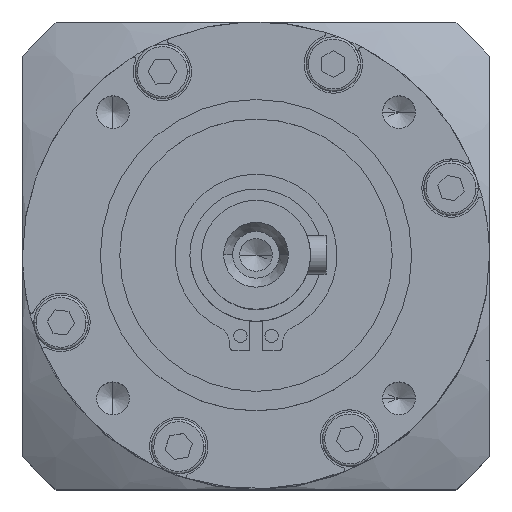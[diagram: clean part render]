
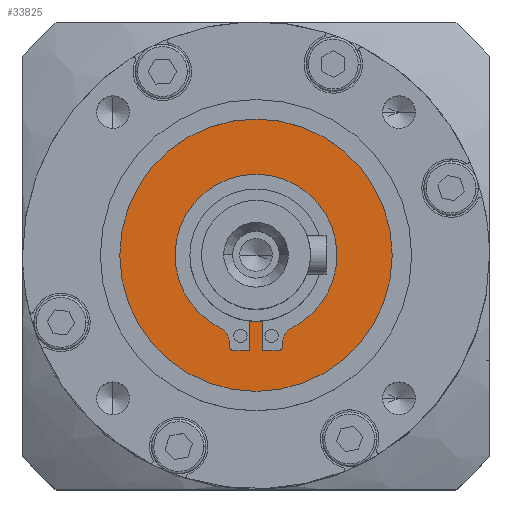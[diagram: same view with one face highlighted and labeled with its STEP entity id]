
A CAD part, top view. The second image highlights one B-rep face of the part: STEP entity #33825.
In plain terms, the highlighted planar face has unit normal (0, 0, 1).
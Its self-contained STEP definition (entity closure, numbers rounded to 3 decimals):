
#851 = AXIS2_PLACEMENT_3D ( 'NONE', #37536, #37821, #37965 ) ;
#903 = CIRCLE ( 'NONE', #15926, 2.5 ) ;
#960 = AXIS2_PLACEMENT_3D ( 'NONE', #38468, #18137, #41873 ) ;
#1443 = CIRCLE ( 'NONE', #960, 10.4 ) ;
#1683 = VERTEX_POINT ( 'NONE', #25567 ) ;
#1700 = AXIS2_PLACEMENT_3D ( 'NONE', #38561, #11574, #35281 ) ;
#1848 = EDGE_CURVE ( 'NONE', #37300, #12900, #16280, .T. ) ;
#3121 = EDGE_CURVE ( 'NONE', #28215, #20685, #39028, .T. ) ;
#3242 = EDGE_CURVE ( 'NONE', #32367, #39078, #17764, .T. ) ;
#3327 = CARTESIAN_POINT ( 'NONE',  ( -17.5, 0., -1. ) ) ;
#3812 = EDGE_CURVE ( 'NONE', #35651, #4660, #32069, .T. ) ;
#3979 = ORIENTED_EDGE ( 'NONE', *, *, #13072, .F. ) ;
#4660 = VERTEX_POINT ( 'NONE', #20517 ) ;
#4753 = CIRCLE ( 'NONE', #20169, 2.5 ) ;
#5136 = ORIENTED_EDGE ( 'NONE', *, *, #23092, .F. ) ;
#5675 = EDGE_CURVE ( 'NONE', #4660, #32367, #21968, .T. ) ;
#6275 = CIRCLE ( 'NONE', #8604, 10.4 ) ;
#6704 = DIRECTION ( 'NONE',  ( 0., 1., 0. ) ) ;
#6786 = EDGE_CURVE ( 'NONE', #1683, #23339, #30357, .T. ) ;
#6891 = ORIENTED_EDGE ( 'NONE', *, *, #15250, .F. ) ;
#7094 = CARTESIAN_POINT ( 'NONE',  ( -10.4, 0., -1. ) ) ;
#7589 = CARTESIAN_POINT ( 'NONE',  ( -2.85, -11.757, -1. ) ) ;
#7803 = DIRECTION ( 'NONE',  ( 0., 0., 1. ) ) ;
#8193 = PLANE ( 'NONE',  #1700 ) ;
#8255 = CARTESIAN_POINT ( 'NONE',  ( 3.35, -11.497, -1. ) ) ;
#8368 = EDGE_CURVE ( 'NONE', #23339, #35651, #43013, .T. ) ;
#8402 = DIRECTION ( 'NONE',  ( 0., 0., 1. ) ) ;
#8452 = DIRECTION ( 'NONE',  ( 1., 0., 0. ) ) ;
#8604 = AXIS2_PLACEMENT_3D ( 'NONE', #28090, #7803, #31465 ) ;
#9098 = DIRECTION ( 'NONE',  ( 0., 0., -1. ) ) ;
#9262 = CARTESIAN_POINT ( 'NONE',  ( 0., 0., -1. ) ) ;
#10321 = LINE ( 'NONE', #36181, #39506 ) ;
#10360 = CIRCLE ( 'NONE', #41762, 0.5 ) ;
#10971 = DIRECTION ( 'NONE',  ( -1., 0., 0. ) ) ;
#11574 = DIRECTION ( 'NONE',  ( 0., 0., -1. ) ) ;
#12612 = EDGE_CURVE ( 'NONE', #36617, #14562, #1443, .T. ) ;
#12651 = DIRECTION ( 'NONE',  ( 1., 0., 0. ) ) ;
#12844 = DIRECTION ( 'NONE',  ( 0., 0., 1. ) ) ;
#12900 = VERTEX_POINT ( 'NONE', #3327 ) ;
#13072 = EDGE_CURVE ( 'NONE', #30993, #28048, #903, .T. ) ;
#13409 = ORIENTED_EDGE ( 'NONE', *, *, #37142, .F. ) ;
#13567 = DIRECTION ( 'NONE',  ( 0., 0., 1. ) ) ;
#14154 = ORIENTED_EDGE ( 'NONE', *, *, #12612, .F. ) ;
#14242 = FACE_BOUND ( 'NONE', #39453, .T. ) ;
#14562 = VERTEX_POINT ( 'NONE', #7094 ) ;
#15250 = EDGE_CURVE ( 'NONE', #33576, #30993, #10321, .T. ) ;
#15926 = AXIS2_PLACEMENT_3D ( 'NONE', #29360, #9098, #32769 ) ;
#16280 = CIRCLE ( 'NONE', #851, 17.5 ) ;
#16315 = CARTESIAN_POINT ( 'NONE',  ( -5.85, -11.497, -1. ) ) ;
#17058 = CIRCLE ( 'NONE', #27456, 17.5 ) ;
#17720 = CARTESIAN_POINT ( 'NONE',  ( 0.85, -12.257, -1. ) ) ;
#17752 = CIRCLE ( 'NONE', #42122, 10.4 ) ;
#17764 = LINE ( 'NONE', #20845, #34755 ) ;
#18137 = DIRECTION ( 'NONE',  ( 0., 0., 1. ) ) ;
#18923 = EDGE_CURVE ( 'NONE', #12900, #37300, #17058, .T. ) ;
#19296 = DIRECTION ( 'NONE',  ( 0., 1., 0. ) ) ;
#19731 = DIRECTION ( 'NONE',  ( -1., 0., 0. ) ) ;
#20166 = CARTESIAN_POINT ( 'NONE',  ( -0.85, 0., -1. ) ) ;
#20169 = AXIS2_PLACEMENT_3D ( 'NONE', #16315, #40053, #19731 ) ;
#20258 = DIRECTION ( 'NONE',  ( 0., -1., 0. ) ) ;
#20517 = CARTESIAN_POINT ( 'NONE',  ( 0.85, -8.457, -1. ) ) ;
#20685 = VERTEX_POINT ( 'NONE', #27031 ) ;
#20845 = CARTESIAN_POINT ( 'NONE',  ( 0., -12.257, -1. ) ) ;
#21968 = LINE ( 'NONE', #30575, #40000 ) ;
#22117 = ORIENTED_EDGE ( 'NONE', *, *, #6786, .F. ) ;
#22449 = ORIENTED_EDGE ( 'NONE', *, *, #5675, .F. ) ;
#23029 = CARTESIAN_POINT ( 'NONE',  ( 2.85, -12.257, -1. ) ) ;
#23092 = EDGE_CURVE ( 'NONE', #24758, #28215, #4753, .T. ) ;
#23292 = FACE_OUTER_BOUND ( 'NONE', #33878, .T. ) ;
#23312 = CARTESIAN_POINT ( 'NONE',  ( 3.35, -11.757, -1. ) ) ;
#23339 = VERTEX_POINT ( 'NONE', #31113 ) ;
#23341 = EDGE_CURVE ( 'NONE', #20685, #1683, #34404, .T. ) ;
#23722 = CARTESIAN_POINT ( 'NONE',  ( -4.716, -9.269, -1. ) ) ;
#24214 = EDGE_CURVE ( 'NONE', #14562, #24758, #6275, .T. ) ;
#24758 = VERTEX_POINT ( 'NONE', #23722 ) ;
#25567 = CARTESIAN_POINT ( 'NONE',  ( -2.85, -12.257, -1. ) ) ;
#25887 = ORIENTED_EDGE ( 'NONE', *, *, #3812, .F. ) ;
#26189 = ORIENTED_EDGE ( 'NONE', *, *, #3242, .F. ) ;
#26268 = ORIENTED_EDGE ( 'NONE', *, *, #8368, .F. ) ;
#26414 = EDGE_CURVE ( 'NONE', #28048, #36617, #17752, .T. ) ;
#26555 = ORIENTED_EDGE ( 'NONE', *, *, #18923, .T. ) ;
#26809 = ORIENTED_EDGE ( 'NONE', *, *, #26414, .F. ) ;
#27031 = CARTESIAN_POINT ( 'NONE',  ( -3.35, -11.757, -1. ) ) ;
#27456 = AXIS2_PLACEMENT_3D ( 'NONE', #9262, #32950, #12651 ) ;
#28048 = VERTEX_POINT ( 'NONE', #38283 ) ;
#28090 = CARTESIAN_POINT ( 'NONE',  ( 0., 0., -1. ) ) ;
#28215 = VERTEX_POINT ( 'NONE', #32478 ) ;
#28669 = CARTESIAN_POINT ( 'NONE',  ( 2.85, -11.757, -1. ) ) ;
#29360 = CARTESIAN_POINT ( 'NONE',  ( 5.85, -11.497, -1. ) ) ;
#29980 = VECTOR ( 'NONE', #20258, 1000. ) ;
#30357 = LINE ( 'NONE', #32110, #38349 ) ;
#30575 = CARTESIAN_POINT ( 'NONE',  ( 0.85, 0., -1. ) ) ;
#30993 = VERTEX_POINT ( 'NONE', #8255 ) ;
#31113 = CARTESIAN_POINT ( 'NONE',  ( -0.85, -12.257, -1. ) ) ;
#31261 = DIRECTION ( 'NONE',  ( 0., 0., 1. ) ) ;
#31356 = CARTESIAN_POINT ( 'NONE',  ( 10.4, 0., -1. ) ) ;
#31465 = DIRECTION ( 'NONE',  ( -1., 0., 0. ) ) ;
#31992 = ORIENTED_EDGE ( 'NONE', *, *, #1848, .T. ) ;
#32055 = DIRECTION ( 'NONE',  ( -1., 0., 0. ) ) ;
#32069 = CIRCLE ( 'NONE', #37454, 8.5 ) ;
#32110 = CARTESIAN_POINT ( 'NONE',  ( 0., -12.257, -1. ) ) ;
#32300 = ORIENTED_EDGE ( 'NONE', *, *, #24214, .F. ) ;
#32367 = VERTEX_POINT ( 'NONE', #17720 ) ;
#32478 = CARTESIAN_POINT ( 'NONE',  ( -3.35, -11.497, -1. ) ) ;
#32769 = DIRECTION ( 'NONE',  ( -1., 0., 0. ) ) ;
#32950 = DIRECTION ( 'NONE',  ( 0., 0., 1. ) ) ;
#33148 = CARTESIAN_POINT ( 'NONE',  ( 0., 0., -1. ) ) ;
#33576 = VERTEX_POINT ( 'NONE', #23312 ) ;
#33748 = CARTESIAN_POINT ( 'NONE',  ( -3.35, 0., -1. ) ) ;
#33825 = ADVANCED_FACE ( 'NONE', ( #14242, #23292 ), #8193, .F. ) ;
#33874 = CARTESIAN_POINT ( 'NONE',  ( 0., 0., -1. ) ) ;
#33878 = EDGE_LOOP ( 'NONE', ( #31992, #26555 ) ) ;
#34404 = CIRCLE ( 'NONE', #36081, 0.5 ) ;
#34755 = VECTOR ( 'NONE', #34926, 1000. ) ;
#34926 = DIRECTION ( 'NONE',  ( 1., 0., 0. ) ) ;
#35281 = DIRECTION ( 'NONE',  ( -1., 0., 0. ) ) ;
#35651 = VERTEX_POINT ( 'NONE', #41118 ) ;
#35915 = ORIENTED_EDGE ( 'NONE', *, *, #3121, .F. ) ;
#36081 = AXIS2_PLACEMENT_3D ( 'NONE', #7589, #31261, #10971 ) ;
#36181 = CARTESIAN_POINT ( 'NONE',  ( 3.35, 0., -1. ) ) ;
#36555 = DIRECTION ( 'NONE',  ( -1., 0., 0. ) ) ;
#36617 = VERTEX_POINT ( 'NONE', #31356 ) ;
#37142 = EDGE_CURVE ( 'NONE', #39078, #33576, #10360, .T. ) ;
#37283 = DIRECTION ( 'NONE',  ( -1., 0., 0. ) ) ;
#37300 = VERTEX_POINT ( 'NONE', #43164 ) ;
#37454 = AXIS2_PLACEMENT_3D ( 'NONE', #33148, #12844, #36555 ) ;
#37536 = CARTESIAN_POINT ( 'NONE',  ( 0., 0., -1. ) ) ;
#37821 = DIRECTION ( 'NONE',  ( 0., 0., 1. ) ) ;
#37965 = DIRECTION ( 'NONE',  ( 1., 0., 0. ) ) ;
#38283 = CARTESIAN_POINT ( 'NONE',  ( 4.716, -9.269, -1. ) ) ;
#38349 = VECTOR ( 'NONE', #8452, 1000. ) ;
#38468 = CARTESIAN_POINT ( 'NONE',  ( 0., 0., -1. ) ) ;
#38561 = CARTESIAN_POINT ( 'NONE',  ( 0., 0., -1. ) ) ;
#39028 = LINE ( 'NONE', #33748, #29980 ) ;
#39078 = VERTEX_POINT ( 'NONE', #23029 ) ;
#39453 = EDGE_LOOP ( 'NONE', ( #22117, #41303, #35915, #5136, #32300, #14154, #26809, #3979, #6891, #13409, #26189, #22449, #25887, #26268 ) ) ;
#39506 = VECTOR ( 'NONE', #19296, 1000. ) ;
#40000 = VECTOR ( 'NONE', #43919, 1000. ) ;
#40053 = DIRECTION ( 'NONE',  ( 0., 0., -1. ) ) ;
#40889 = VECTOR ( 'NONE', #6704, 1000. ) ;
#41118 = CARTESIAN_POINT ( 'NONE',  ( -0.85, -8.457, -1. ) ) ;
#41303 = ORIENTED_EDGE ( 'NONE', *, *, #23341, .F. ) ;
#41762 = AXIS2_PLACEMENT_3D ( 'NONE', #28669, #8402, #32055 ) ;
#41873 = DIRECTION ( 'NONE',  ( -1., 0., 0. ) ) ;
#42122 = AXIS2_PLACEMENT_3D ( 'NONE', #33874, #13567, #37283 ) ;
#43013 = LINE ( 'NONE', #20166, #40889 ) ;
#43164 = CARTESIAN_POINT ( 'NONE',  ( 17.5, 0., -1. ) ) ;
#43919 = DIRECTION ( 'NONE',  ( 0., -1., 0. ) ) ;
